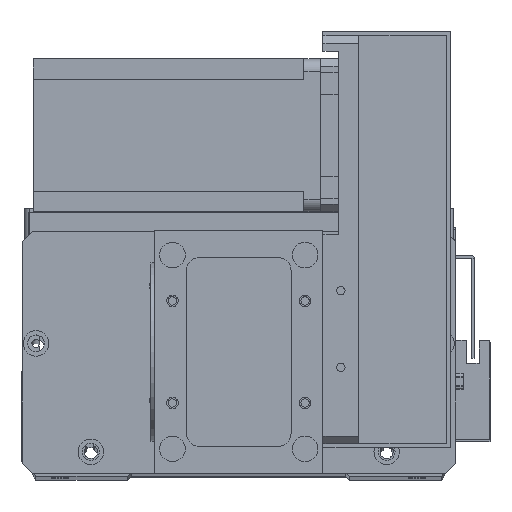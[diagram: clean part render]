
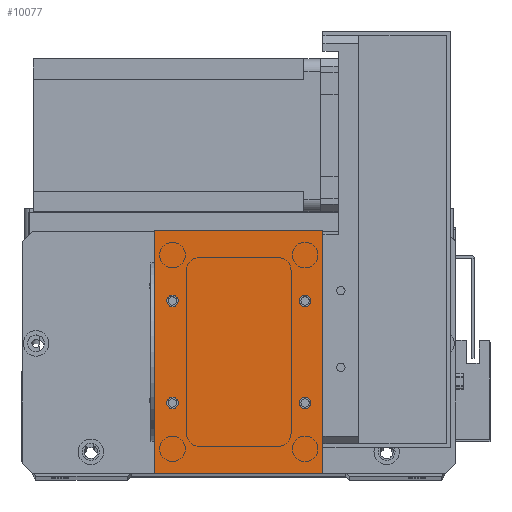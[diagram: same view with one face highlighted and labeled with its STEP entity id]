
A CAD part, top view. The second image highlights one B-rep face of the part: STEP entity #10077.
In plain terms, the highlighted planar face has unit normal (0, 0, 1).
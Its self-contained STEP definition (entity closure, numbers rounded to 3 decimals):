
#819 = CARTESIAN_POINT ( 'NONE',  ( 7., 27.5, 2. ) ) ;
#835 = VERTEX_POINT ( 'NONE', #5052 ) ;
#1003 = ORIENTED_EDGE ( 'NONE', *, *, #30050, .T. ) ;
#1245 = VECTOR ( 'NONE', #21874, 1000. ) ;
#1965 = FACE_BOUND ( 'NONE', #4513, .T. ) ;
#2271 = CIRCLE ( 'NONE', #30644, 2.25 ) ;
#2399 = ORIENTED_EDGE ( 'NONE', *, *, #5749, .F. ) ;
#2710 = CIRCLE ( 'NONE', #16477, 2.25 ) ;
#2732 = FACE_BOUND ( 'NONE', #3643, .T. ) ;
#3275 = DIRECTION ( 'NONE',  ( 1., 0., 0. ) ) ;
#3605 = EDGE_CURVE ( 'NONE', #27951, #21957, #28710, .T. ) ;
#3631 = EDGE_CURVE ( 'NONE', #21957, #27951, #14960, .T. ) ;
#3643 = EDGE_LOOP ( 'NONE', ( #13476, #10596 ) ) ;
#4038 = LINE ( 'NONE', #9998, #16992 ) ;
#4104 = DIRECTION ( 'NONE',  ( 0., 0., -1. ) ) ;
#4513 = EDGE_LOOP ( 'NONE', ( #25173, #2399 ) ) ;
#4720 = EDGE_CURVE ( 'NONE', #835, #22830, #22507, .T. ) ;
#4904 = DIRECTION ( 'NONE',  ( 1., 0., 0. ) ) ;
#5009 = DIRECTION ( 'NONE',  ( 0., 0., 1. ) ) ;
#5041 = CARTESIAN_POINT ( 'NONE',  ( 59., 27.5, 2. ) ) ;
#5052 = CARTESIAN_POINT ( 'NONE',  ( 61.25, 67.5, 2. ) ) ;
#5749 = EDGE_CURVE ( 'NONE', #13539, #23526, #2271, .T. ) ;
#6411 = CARTESIAN_POINT ( 'NONE',  ( 9.25, 67.5, 2. ) ) ;
#7221 = CARTESIAN_POINT ( 'NONE',  ( 0., 95., 2. ) ) ;
#7485 = CARTESIAN_POINT ( 'NONE',  ( 66., 0., 2. ) ) ;
#8437 = FACE_BOUND ( 'NONE', #11878, .T. ) ;
#8447 = ORIENTED_EDGE ( 'NONE', *, *, #27035, .F. ) ;
#8803 = AXIS2_PLACEMENT_3D ( 'NONE', #21033, #20621, #19050 ) ;
#8878 = PLANE ( 'NONE',  #18893 ) ;
#9620 = EDGE_CURVE ( 'NONE', #12416, #24821, #27126, .T. ) ;
#9742 = CARTESIAN_POINT ( 'NONE',  ( 0., 0., 2. ) ) ;
#9998 = CARTESIAN_POINT ( 'NONE',  ( 0., 95., 2. ) ) ;
#10077 = ADVANCED_FACE ( 'NONE', ( #8437, #2732, #1965, #27095, #20622 ), #8878, .F. ) ;
#10088 = EDGE_CURVE ( 'NONE', #30832, #27899, #13381, .T. ) ;
#10208 = CARTESIAN_POINT ( 'NONE',  ( 56.75, 67.5, 2. ) ) ;
#10437 = LINE ( 'NONE', #7485, #23411 ) ;
#10596 = ORIENTED_EDGE ( 'NONE', *, *, #11302, .F. ) ;
#10632 = CARTESIAN_POINT ( 'NONE',  ( 9.25, 27.5, 2. ) ) ;
#10932 = CARTESIAN_POINT ( 'NONE',  ( 59., 27.5, 2. ) ) ;
#11281 = EDGE_CURVE ( 'NONE', #23526, #13539, #2710, .T. ) ;
#11302 = EDGE_CURVE ( 'NONE', #22830, #835, #21355, .T. ) ;
#11522 = DIRECTION ( 'NONE',  ( 0., 0., 1. ) ) ;
#11648 = DIRECTION ( 'NONE',  ( 1., 0., 0. ) ) ;
#11752 = DIRECTION ( 'NONE',  ( 0., 0., 1. ) ) ;
#11878 = EDGE_LOOP ( 'NONE', ( #13364, #21276 ) ) ;
#11951 = CARTESIAN_POINT ( 'NONE',  ( 7., 67.5, 2. ) ) ;
#12416 = VERTEX_POINT ( 'NONE', #7221 ) ;
#12460 = DIRECTION ( 'NONE',  ( 1., 0., 0. ) ) ;
#13364 = ORIENTED_EDGE ( 'NONE', *, *, #3605, .F. ) ;
#13380 = DIRECTION ( 'NONE',  ( 1., 0., 0. ) ) ;
#13381 = CIRCLE ( 'NONE', #20514, 2.25 ) ;
#13476 = ORIENTED_EDGE ( 'NONE', *, *, #4720, .F. ) ;
#13483 = CARTESIAN_POINT ( 'NONE',  ( 59., 67.5, 2. ) ) ;
#13539 = VERTEX_POINT ( 'NONE', #18676 ) ;
#13610 = CARTESIAN_POINT ( 'NONE',  ( 4.75, 67.5, 2. ) ) ;
#14409 = LINE ( 'NONE', #19809, #21634 ) ;
#14549 = EDGE_CURVE ( 'NONE', #18794, #12416, #4038, .T. ) ;
#14900 = DIRECTION ( 'NONE',  ( -1., 0., 0. ) ) ;
#14942 = ORIENTED_EDGE ( 'NONE', *, *, #15826, .T. ) ;
#14960 = CIRCLE ( 'NONE', #15330, 2.25 ) ;
#15330 = AXIS2_PLACEMENT_3D ( 'NONE', #11951, #11752, #11648 ) ;
#15728 = CARTESIAN_POINT ( 'NONE',  ( 66., 95., 2. ) ) ;
#15826 = EDGE_CURVE ( 'NONE', #24821, #20453, #14409, .T. ) ;
#15962 = DIRECTION ( 'NONE',  ( 1., 0., 0. ) ) ;
#16477 = AXIS2_PLACEMENT_3D ( 'NONE', #10932, #27972, #13380 ) ;
#16992 = VECTOR ( 'NONE', #14900, 1000. ) ;
#17851 = DIRECTION ( 'NONE',  ( 0., 0., 1. ) ) ;
#18445 = EDGE_LOOP ( 'NONE', ( #21351, #8447 ) ) ;
#18676 = CARTESIAN_POINT ( 'NONE',  ( 56.75, 27.5, 2. ) ) ;
#18688 = CARTESIAN_POINT ( 'NONE',  ( 0., 0., 2. ) ) ;
#18794 = VERTEX_POINT ( 'NONE', #15728 ) ;
#18893 = AXIS2_PLACEMENT_3D ( 'NONE', #18688, #4104, #21109 ) ;
#19050 = DIRECTION ( 'NONE',  ( 1., 0., 0. ) ) ;
#19809 = CARTESIAN_POINT ( 'NONE',  ( 0., 0., 2. ) ) ;
#20382 = CARTESIAN_POINT ( 'NONE',  ( 61.25, 27.5, 2. ) ) ;
#20453 = VERTEX_POINT ( 'NONE', #28945 ) ;
#20477 = EDGE_LOOP ( 'NONE', ( #28228, #14942, #1003, #24442 ) ) ;
#20514 = AXIS2_PLACEMENT_3D ( 'NONE', #26131, #11522, #28592 ) ;
#20621 = DIRECTION ( 'NONE',  ( 0., 0., 1. ) ) ;
#20622 = FACE_OUTER_BOUND ( 'NONE', #20477, .T. ) ;
#21033 = CARTESIAN_POINT ( 'NONE',  ( 7., 67.5, 2. ) ) ;
#21109 = DIRECTION ( 'NONE',  ( -1., 0., 0. ) ) ;
#21276 = ORIENTED_EDGE ( 'NONE', *, *, #3631, .F. ) ;
#21351 = ORIENTED_EDGE ( 'NONE', *, *, #10088, .F. ) ;
#21355 = CIRCLE ( 'NONE', #22986, 2.25 ) ;
#21634 = VECTOR ( 'NONE', #12460, 1000. ) ;
#21874 = DIRECTION ( 'NONE',  ( 0., -1., 0. ) ) ;
#21957 = VERTEX_POINT ( 'NONE', #13610 ) ;
#22507 = CIRCLE ( 'NONE', #27578, 2.25 ) ;
#22637 = DIRECTION ( 'NONE',  ( 0., 0., 1. ) ) ;
#22830 = VERTEX_POINT ( 'NONE', #10208 ) ;
#22856 = DIRECTION ( 'NONE',  ( 1., 0., 0. ) ) ;
#22926 = CARTESIAN_POINT ( 'NONE',  ( 59., 67.5, 2. ) ) ;
#22986 = AXIS2_PLACEMENT_3D ( 'NONE', #13483, #30501, #15962 ) ;
#23411 = VECTOR ( 'NONE', #24513, 1000. ) ;
#23526 = VERTEX_POINT ( 'NONE', #20382 ) ;
#23731 = CARTESIAN_POINT ( 'NONE',  ( 0., 0., 2. ) ) ;
#24442 = ORIENTED_EDGE ( 'NONE', *, *, #14549, .T. ) ;
#24513 = DIRECTION ( 'NONE',  ( 0., 1., 0. ) ) ;
#24754 = AXIS2_PLACEMENT_3D ( 'NONE', #819, #17851, #3275 ) ;
#24821 = VERTEX_POINT ( 'NONE', #23731 ) ;
#25173 = ORIENTED_EDGE ( 'NONE', *, *, #11281, .F. ) ;
#26131 = CARTESIAN_POINT ( 'NONE',  ( 7., 27.5, 2. ) ) ;
#27035 = EDGE_CURVE ( 'NONE', #27899, #30832, #27750, .T. ) ;
#27095 = FACE_BOUND ( 'NONE', #18445, .T. ) ;
#27126 = LINE ( 'NONE', #9742, #1245 ) ;
#27578 = AXIS2_PLACEMENT_3D ( 'NONE', #22926, #22637, #22856 ) ;
#27750 = CIRCLE ( 'NONE', #24754, 2.25 ) ;
#27899 = VERTEX_POINT ( 'NONE', #28021 ) ;
#27951 = VERTEX_POINT ( 'NONE', #6411 ) ;
#27972 = DIRECTION ( 'NONE',  ( 0., 0., 1. ) ) ;
#28021 = CARTESIAN_POINT ( 'NONE',  ( 4.75, 27.5, 2. ) ) ;
#28228 = ORIENTED_EDGE ( 'NONE', *, *, #9620, .T. ) ;
#28592 = DIRECTION ( 'NONE',  ( 1., 0., 0. ) ) ;
#28710 = CIRCLE ( 'NONE', #8803, 2.25 ) ;
#28945 = CARTESIAN_POINT ( 'NONE',  ( 66., 0., 2. ) ) ;
#30050 = EDGE_CURVE ( 'NONE', #20453, #18794, #10437, .T. ) ;
#30501 = DIRECTION ( 'NONE',  ( 0., 0., 1. ) ) ;
#30644 = AXIS2_PLACEMENT_3D ( 'NONE', #5041, #5009, #4904 ) ;
#30832 = VERTEX_POINT ( 'NONE', #10632 ) ;
